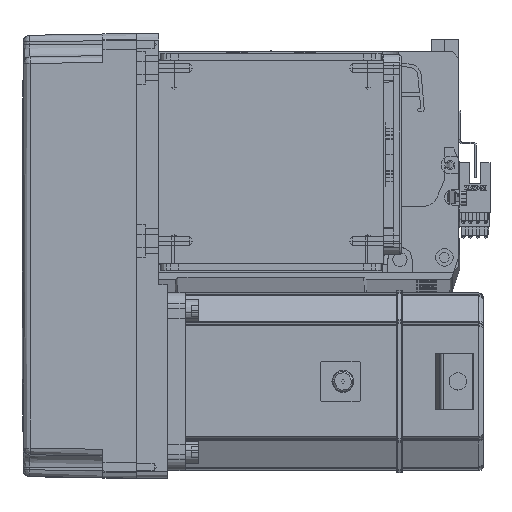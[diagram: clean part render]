
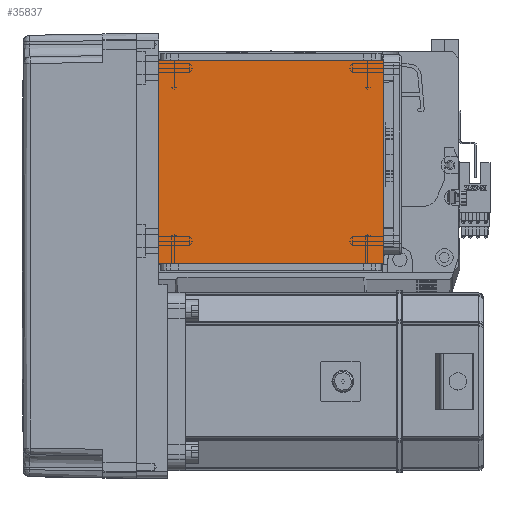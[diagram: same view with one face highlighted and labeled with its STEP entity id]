
A CAD part, top view. The second image highlights one B-rep face of the part: STEP entity #35837.
In plain terms, the highlighted planar face has unit normal (0, 0, 1).
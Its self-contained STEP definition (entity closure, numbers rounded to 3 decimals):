
#620 = LINE ( 'NONE', #11726, #29282 ) ;
#2580 = VERTEX_POINT ( 'NONE', #64196 ) ;
#4127 = ORIENTED_EDGE ( 'NONE', *, *, #44022, .F. ) ;
#5289 = DIRECTION ( 'NONE',  ( -1., 0., 0. ) ) ;
#5342 = CARTESIAN_POINT ( 'NONE',  ( 50.5, 111.5, 115. ) ) ;
#8800 = EDGE_CURVE ( 'NONE', #15850, #9114, #41469, .T. ) ;
#9114 = VERTEX_POINT ( 'NONE', #56976 ) ;
#9985 = LINE ( 'NONE', #37945, #66348 ) ;
#11726 = CARTESIAN_POINT ( 'NONE',  ( 50.5, 122., 115. ) ) ;
#15412 = ORIENTED_EDGE ( 'NONE', *, *, #8800, .F. ) ;
#15850 = VERTEX_POINT ( 'NONE', #60058 ) ;
#18174 = CARTESIAN_POINT ( 'NONE',  ( 0., 0., 115. ) ) ;
#23278 = EDGE_LOOP ( 'NONE', ( #4127, #54703, #15412, #50603 ) ) ;
#25501 = VECTOR ( 'NONE', #5289, 1000. ) ;
#25780 = CARTESIAN_POINT ( 'NONE',  ( -50.5, 122., 115. ) ) ;
#28855 = DIRECTION ( 'NONE',  ( 0., 1., 0. ) ) ;
#29282 = VECTOR ( 'NONE', #28855, 1000. ) ;
#29761 = VERTEX_POINT ( 'NONE', #5342 ) ;
#32509 = CARTESIAN_POINT ( 'NONE',  ( -70.004, 20., 115. ) ) ;
#35837 = ADVANCED_FACE ( 'NONE', ( #56338 ), #60056, .T. ) ;
#36540 = DIRECTION ( 'NONE',  ( 0., -1., 0. ) ) ;
#37945 = CARTESIAN_POINT ( 'NONE',  ( -70.004, 111.5, 115. ) ) ;
#39081 = DIRECTION ( 'NONE',  ( 1., 0., 0. ) ) ;
#41469 = LINE ( 'NONE', #32509, #25501 ) ;
#43156 = DIRECTION ( 'NONE',  ( 1., 0., 0. ) ) ;
#44022 = EDGE_CURVE ( 'NONE', #2580, #29761, #9985, .T. ) ;
#50603 = ORIENTED_EDGE ( 'NONE', *, *, #69497, .T. ) ;
#51358 = VECTOR ( 'NONE', #36540, 1000. ) ;
#54703 = ORIENTED_EDGE ( 'NONE', *, *, #68431, .T. ) ;
#56338 = FACE_OUTER_BOUND ( 'NONE', #23278, .T. ) ;
#56976 = CARTESIAN_POINT ( 'NONE',  ( -50.5, 20., 115. ) ) ;
#58963 = LINE ( 'NONE', #25780, #51358 ) ;
#59328 = AXIS2_PLACEMENT_3D ( 'NONE', #18174, #66388, #39081 ) ;
#60056 = PLANE ( 'NONE',  #59328 ) ;
#60058 = CARTESIAN_POINT ( 'NONE',  ( 50.5, 20., 115. ) ) ;
#64196 = CARTESIAN_POINT ( 'NONE',  ( -50.5, 111.5, 115. ) ) ;
#66348 = VECTOR ( 'NONE', #43156, 1000. ) ;
#66388 = DIRECTION ( 'NONE',  ( 0., 0., 1. ) ) ;
#68431 = EDGE_CURVE ( 'NONE', #2580, #9114, #58963, .T. ) ;
#69497 = EDGE_CURVE ( 'NONE', #15850, #29761, #620, .T. ) ;
